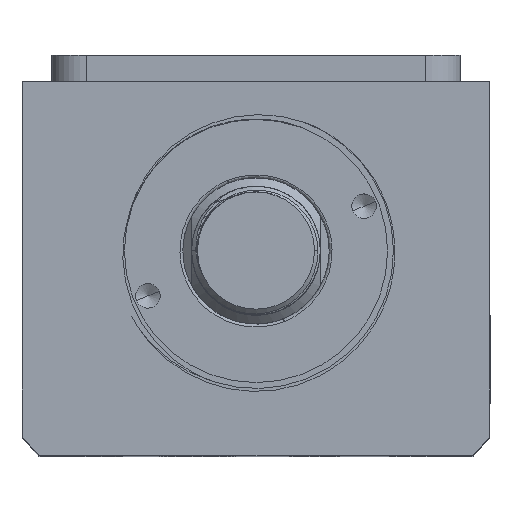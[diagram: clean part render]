
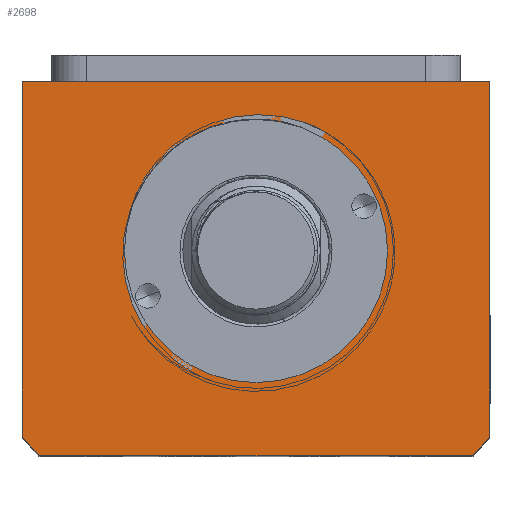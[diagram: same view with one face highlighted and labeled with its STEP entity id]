
A CAD part, top view. The second image highlights one B-rep face of the part: STEP entity #2698.
In plain terms, the highlighted planar face has unit normal (0, 0, 1).
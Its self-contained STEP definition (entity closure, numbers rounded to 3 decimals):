
#86 = CARTESIAN_POINT ( 'NONE',  ( -22.5, 3., 90. ) ) ;
#835 = DIRECTION ( 'NONE',  ( 0., 0., 1. ) ) ;
#853 = DIRECTION ( 'NONE',  ( 0., 0., 1. ) ) ;
#866 = CARTESIAN_POINT ( 'NONE',  ( 40., 32., 90. ) ) ;
#1078 = CARTESIAN_POINT ( 'NONE',  ( 40., -28.639, 90. ) ) ;
#1444 = ORIENTED_EDGE ( 'NONE', *, *, #2545, .F. ) ;
#1529 = LINE ( 'NONE', #5547, #6539 ) ;
#1766 = CIRCLE ( 'NONE', #10296, 51. ) ;
#1896 = CARTESIAN_POINT ( 'NONE',  ( 0., 0., 90. ) ) ;
#2068 = EDGE_CURVE ( 'NONE', #3185, #8040, #3730, .T. ) ;
#2216 = DIRECTION ( 'NONE',  ( 1., 0., 0. ) ) ;
#2351 = DIRECTION ( 'NONE',  ( 0., 0., 1. ) ) ;
#2386 = VERTEX_POINT ( 'NONE', #6820 ) ;
#2545 = EDGE_CURVE ( 'NONE', #12364, #2933, #7415, .T. ) ;
#2611 = DIRECTION ( 'NONE',  ( 0., 1., 0. ) ) ;
#2698 = ADVANCED_FACE ( 'NONE', ( #3556, #6048 ), #8289, .T. ) ;
#2791 = VERTEX_POINT ( 'NONE', #9533 ) ;
#2933 = VERTEX_POINT ( 'NONE', #8591 ) ;
#3011 = ORIENTED_EDGE ( 'NONE', *, *, #7939, .T. ) ;
#3185 = VERTEX_POINT ( 'NONE', #1078 ) ;
#3263 = CARTESIAN_POINT ( 'NONE',  ( -37.094, -32., 90. ) ) ;
#3283 = ORIENTED_EDGE ( 'NONE', *, *, #2068, .T. ) ;
#3357 = EDGE_CURVE ( 'NONE', #5614, #2791, #1529, .T. ) ;
#3464 = EDGE_LOOP ( 'NONE', ( #7293, #1444 ) ) ;
#3556 = FACE_BOUND ( 'NONE', #3464, .T. ) ;
#3730 = LINE ( 'NONE', #866, #6569 ) ;
#3762 = VERTEX_POINT ( 'NONE', #3263 ) ;
#3861 = CIRCLE ( 'NONE', #11081, 22.5 ) ;
#3874 = ORIENTED_EDGE ( 'NONE', *, *, #9114, .T. ) ;
#3907 = EDGE_CURVE ( 'NONE', #2933, #12364, #3861, .T. ) ;
#4110 = ORIENTED_EDGE ( 'NONE', *, *, #10256, .T. ) ;
#4259 = LINE ( 'NONE', #6458, #6059 ) ;
#5064 = CARTESIAN_POINT ( 'NONE',  ( 0., 3., 90. ) ) ;
#5547 = CARTESIAN_POINT ( 'NONE',  ( -40., 32., 90. ) ) ;
#5594 = CARTESIAN_POINT ( 'NONE',  ( -40., 32., 90. ) ) ;
#5614 = VERTEX_POINT ( 'NONE', #8492 ) ;
#5949 = CIRCLE ( 'NONE', #13242, 51. ) ;
#6048 = FACE_OUTER_BOUND ( 'NONE', #8875, .T. ) ;
#6059 = VECTOR ( 'NONE', #2216, 1000. ) ;
#6126 = DIRECTION ( 'NONE',  ( 1., 0., 0. ) ) ;
#6458 = CARTESIAN_POINT ( 'NONE',  ( -40., -32., 90. ) ) ;
#6539 = VECTOR ( 'NONE', #9841, 1000. ) ;
#6569 = VECTOR ( 'NONE', #2611, 1000. ) ;
#6820 = CARTESIAN_POINT ( 'NONE',  ( 37.094, -32., 90. ) ) ;
#7038 = VECTOR ( 'NONE', #13125, 1000. ) ;
#7251 = CARTESIAN_POINT ( 'NONE',  ( 0., 3., 90. ) ) ;
#7293 = ORIENTED_EDGE ( 'NONE', *, *, #3907, .F. ) ;
#7415 = CIRCLE ( 'NONE', #7553, 22.5 ) ;
#7553 = AXIS2_PLACEMENT_3D ( 'NONE', #11334, #13241, #13902 ) ;
#7939 = EDGE_CURVE ( 'NONE', #2791, #3762, #5949, .T. ) ;
#8040 = VERTEX_POINT ( 'NONE', #9577 ) ;
#8289 = PLANE ( 'NONE',  #13314 ) ;
#8327 = DIRECTION ( 'NONE',  ( 1., 0., 0. ) ) ;
#8338 = DIRECTION ( 'NONE',  ( 1., 0., 0. ) ) ;
#8492 = CARTESIAN_POINT ( 'NONE',  ( -40., 32., 90. ) ) ;
#8591 = CARTESIAN_POINT ( 'NONE',  ( 22.5, 3., 90. ) ) ;
#8788 = CARTESIAN_POINT ( 'NONE',  ( 0., 3., 90. ) ) ;
#8875 = EDGE_LOOP ( 'NONE', ( #9049, #3011, #4110, #3874, #3283, #11328 ) ) ;
#9049 = ORIENTED_EDGE ( 'NONE', *, *, #3357, .T. ) ;
#9114 = EDGE_CURVE ( 'NONE', #2386, #3185, #1766, .T. ) ;
#9533 = CARTESIAN_POINT ( 'NONE',  ( -40., -28.639, 90. ) ) ;
#9577 = CARTESIAN_POINT ( 'NONE',  ( 40., 32., 90. ) ) ;
#9841 = DIRECTION ( 'NONE',  ( 0., -1., 0. ) ) ;
#9882 = DIRECTION ( 'NONE',  ( 1., 0., 0. ) ) ;
#10249 = LINE ( 'NONE', #5594, #7038 ) ;
#10256 = EDGE_CURVE ( 'NONE', #3762, #2386, #4259, .T. ) ;
#10296 = AXIS2_PLACEMENT_3D ( 'NONE', #7251, #835, #8327 ) ;
#11081 = AXIS2_PLACEMENT_3D ( 'NONE', #8788, #2351, #9882 ) ;
#11328 = ORIENTED_EDGE ( 'NONE', *, *, #13170, .T. ) ;
#11334 = CARTESIAN_POINT ( 'NONE',  ( 0., 3., 90. ) ) ;
#12364 = VERTEX_POINT ( 'NONE', #86 ) ;
#12572 = DIRECTION ( 'NONE',  ( 0., 0., 1. ) ) ;
#13125 = DIRECTION ( 'NONE',  ( -1., 0., 0. ) ) ;
#13170 = EDGE_CURVE ( 'NONE', #8040, #5614, #10249, .T. ) ;
#13241 = DIRECTION ( 'NONE',  ( 0., 0., 1. ) ) ;
#13242 = AXIS2_PLACEMENT_3D ( 'NONE', #5064, #12572, #6126 ) ;
#13314 = AXIS2_PLACEMENT_3D ( 'NONE', #1896, #853, #8338 ) ;
#13902 = DIRECTION ( 'NONE',  ( 1., 0., 0. ) ) ;
